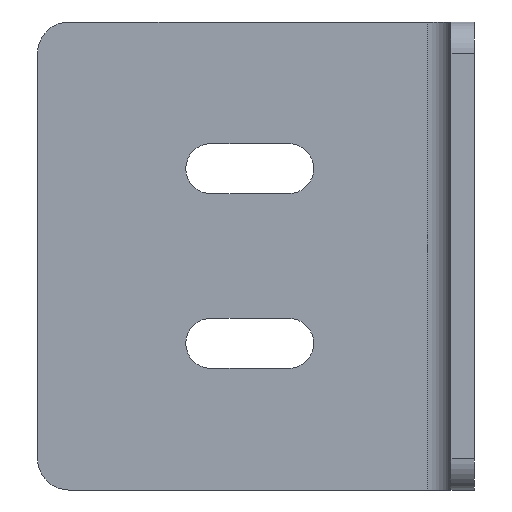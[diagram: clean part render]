
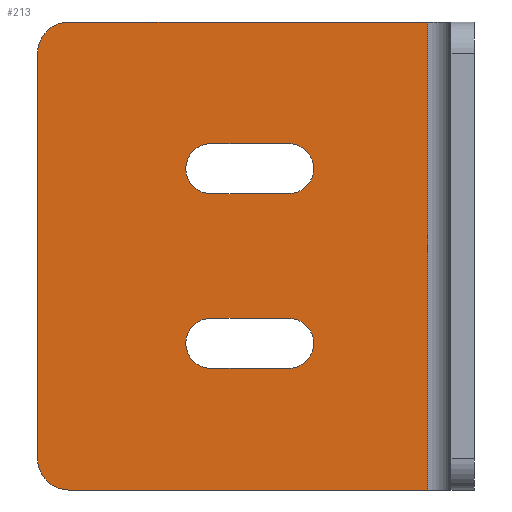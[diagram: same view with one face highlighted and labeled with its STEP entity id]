
A CAD part, left-side view. The second image highlights one B-rep face of the part: STEP entity #213.
In plain terms, the highlighted planar face has unit normal (-1, 0, 0).
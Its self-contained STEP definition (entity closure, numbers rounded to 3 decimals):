
#9 = DIRECTION ( 'NONE',  ( 0., 0., 1. ) ) ;
#20 = VECTOR ( 'NONE', #254, 1000. ) ;
#26 = DIRECTION ( 'NONE',  ( -1., 0., 0. ) ) ;
#55 = VERTEX_POINT ( 'NONE', #749 ) ;
#66 = FACE_BOUND ( 'NONE', #933, .T. ) ;
#72 = CARTESIAN_POINT ( 'NONE',  ( 0., 26.5, 28. ) ) ;
#83 = LINE ( 'NONE', #399, #256 ) ;
#86 = DIRECTION ( 'NONE',  ( 0., 1., 0. ) ) ;
#90 = EDGE_CURVE ( 'NONE', #679, #996, #1013, .T. ) ;
#92 = CARTESIAN_POINT ( 'NONE',  ( 0., 24.5, 30. ) ) ;
#111 = CARTESIAN_POINT ( 'NONE',  ( 0., 15.4, 7.8 ) ) ;
#112 = VERTEX_POINT ( 'NONE', #260 ) ;
#119 = DIRECTION ( 'NONE',  ( 0., 0., 1. ) ) ;
#131 = CIRCLE ( 'NONE', #859, 1.6 ) ;
#152 = CARTESIAN_POINT ( 'NONE',  ( 0., 15.4, 11. ) ) ;
#159 = ORIENTED_EDGE ( 'NONE', *, *, #751, .T. ) ;
#167 = ORIENTED_EDGE ( 'NONE', *, *, #90, .F. ) ;
#173 = VECTOR ( 'NONE', #797, 1000. ) ;
#177 = VERTEX_POINT ( 'NONE', #152 ) ;
#183 = EDGE_CURVE ( 'NONE', #814, #112, #962, .T. ) ;
#186 = DIRECTION ( 'NONE',  ( 0., 0., -1. ) ) ;
#200 = AXIS2_PLACEMENT_3D ( 'NONE', #201, #520, #119 ) ;
#201 = CARTESIAN_POINT ( 'NONE',  ( 0., 10.4, 9.4 ) ) ;
#213 = ADVANCED_FACE ( 'NONE', ( #66, #527, #219 ), #612, .F. ) ;
#214 = DIRECTION ( 'NONE',  ( -1., 0., 0. ) ) ;
#219 = FACE_OUTER_BOUND ( 'NONE', #640, .T. ) ;
#220 = ORIENTED_EDGE ( 'NONE', *, *, #954, .F. ) ;
#222 = CARTESIAN_POINT ( 'NONE',  ( 0., 10.4, 7.8 ) ) ;
#231 = DIRECTION ( 'NONE',  ( 0., 0., -1. ) ) ;
#236 = EDGE_CURVE ( 'NONE', #177, #679, #712, .T. ) ;
#245 = ORIENTED_EDGE ( 'NONE', *, *, #236, .F. ) ;
#250 = EDGE_CURVE ( 'NONE', #899, #630, #523, .T. ) ;
#252 = CARTESIAN_POINT ( 'NONE',  ( 0., 15.4, 22.2 ) ) ;
#254 = DIRECTION ( 'NONE',  ( 0., -1., 0. ) ) ;
#256 = VECTOR ( 'NONE', #86, 1000. ) ;
#260 = CARTESIAN_POINT ( 'NONE',  ( 0., 1.5, 30. ) ) ;
#264 = VERTEX_POINT ( 'NONE', #628 ) ;
#275 = VERTEX_POINT ( 'NONE', #937 ) ;
#286 = ORIENTED_EDGE ( 'NONE', *, *, #685, .F. ) ;
#289 = CIRCLE ( 'NONE', #658, 2. ) ;
#291 = CARTESIAN_POINT ( 'NONE',  ( 0., 0., 30. ) ) ;
#297 = CARTESIAN_POINT ( 'NONE',  ( 0., 24.5, 0. ) ) ;
#321 = EDGE_CURVE ( 'NONE', #951, #897, #817, .T. ) ;
#330 = EDGE_CURVE ( 'NONE', #55, #177, #83, .T. ) ;
#331 = LINE ( 'NONE', #727, #173 ) ;
#359 = EDGE_CURVE ( 'NONE', #897, #112, #721, .T. ) ;
#362 = EDGE_CURVE ( 'NONE', #275, #899, #902, .T. ) ;
#363 = CARTESIAN_POINT ( 'NONE',  ( 0., 10.4, 22.2 ) ) ;
#365 = DIRECTION ( 'NONE',  ( 0., 0., -1. ) ) ;
#375 = DIRECTION ( 'NONE',  ( -1., 0., 0. ) ) ;
#381 = DIRECTION ( 'NONE',  ( 0., 0., -1. ) ) ;
#383 = CARTESIAN_POINT ( 'NONE',  ( 0., 10.4, 20.6 ) ) ;
#399 = CARTESIAN_POINT ( 'NONE',  ( 0., 15.4, 11. ) ) ;
#403 = CARTESIAN_POINT ( 'NONE',  ( 0., 1.5, 30. ) ) ;
#408 = ORIENTED_EDGE ( 'NONE', *, *, #362, .F. ) ;
#420 = EDGE_CURVE ( 'NONE', #814, #759, #289, .T. ) ;
#431 = LINE ( 'NONE', #252, #1016 ) ;
#438 = VECTOR ( 'NONE', #787, 1000. ) ;
#441 = CARTESIAN_POINT ( 'NONE',  ( 0., 26.5, 2. ) ) ;
#456 = EDGE_LOOP ( 'NONE', ( #408, #220, #636, #505 ) ) ;
#457 = DIRECTION ( 'NONE',  ( 0., 0., -1. ) ) ;
#458 = CARTESIAN_POINT ( 'NONE',  ( 0., 0., 30. ) ) ;
#469 = DIRECTION ( 'NONE',  ( 0., 0., 1. ) ) ;
#505 = ORIENTED_EDGE ( 'NONE', *, *, #250, .F. ) ;
#520 = DIRECTION ( 'NONE',  ( -1., 0., 0. ) ) ;
#523 = CIRCLE ( 'NONE', #803, 1.6 ) ;
#527 = FACE_BOUND ( 'NONE', #456, .T. ) ;
#530 = DIRECTION ( 'NONE',  ( -1., 0., 0. ) ) ;
#547 = EDGE_CURVE ( 'NONE', #558, #951, #730, .T. ) ;
#558 = VERTEX_POINT ( 'NONE', #441 ) ;
#571 = DIRECTION ( 'NONE',  ( 0., 1., 0. ) ) ;
#573 = DIRECTION ( 'NONE',  ( 0., -1., 0. ) ) ;
#577 = VECTOR ( 'NONE', #9, 1000. ) ;
#585 = ORIENTED_EDGE ( 'NONE', *, *, #420, .T. ) ;
#611 = CARTESIAN_POINT ( 'NONE',  ( 0., 24.5, 2. ) ) ;
#612 = PLANE ( 'NONE',  #784 ) ;
#620 = DIRECTION ( 'NONE',  ( 1., 0., 0. ) ) ;
#628 = CARTESIAN_POINT ( 'NONE',  ( 0., 15.4, 22.2 ) ) ;
#630 = VERTEX_POINT ( 'NONE', #363 ) ;
#636 = ORIENTED_EDGE ( 'NONE', *, *, #931, .F. ) ;
#640 = EDGE_LOOP ( 'NONE', ( #159, #938, #821, #766, #1001, #585 ) ) ;
#650 = CARTESIAN_POINT ( 'NONE',  ( 0., 1.5, 0. ) ) ;
#658 = AXIS2_PLACEMENT_3D ( 'NONE', #1005, #26, #186 ) ;
#669 = CARTESIAN_POINT ( 'NONE',  ( 0., 10.4, 19. ) ) ;
#679 = VERTEX_POINT ( 'NONE', #1041 ) ;
#685 = EDGE_CURVE ( 'NONE', #996, #55, #880, .T. ) ;
#712 = CIRCLE ( 'NONE', #906, 1.6 ) ;
#717 = ORIENTED_EDGE ( 'NONE', *, *, #330, .F. ) ;
#721 = LINE ( 'NONE', #403, #577 ) ;
#727 = CARTESIAN_POINT ( 'NONE',  ( 0., 26.5, 30. ) ) ;
#730 = CIRCLE ( 'NONE', #973, 2. ) ;
#749 = CARTESIAN_POINT ( 'NONE',  ( 0., 10.4, 11. ) ) ;
#751 = EDGE_CURVE ( 'NONE', #759, #558, #331, .T. ) ;
#758 = DIRECTION ( 'NONE',  ( 0., -1., 0. ) ) ;
#759 = VERTEX_POINT ( 'NONE', #72 ) ;
#766 = ORIENTED_EDGE ( 'NONE', *, *, #359, .T. ) ;
#772 = CARTESIAN_POINT ( 'NONE',  ( 0., 15.4, 20.6 ) ) ;
#776 = CARTESIAN_POINT ( 'NONE',  ( 0., 15.4, 9.4 ) ) ;
#784 = AXIS2_PLACEMENT_3D ( 'NONE', #291, #620, #231 ) ;
#787 = DIRECTION ( 'NONE',  ( 0., -1., 0. ) ) ;
#792 = DIRECTION ( 'NONE',  ( -1., 0., 0. ) ) ;
#797 = DIRECTION ( 'NONE',  ( 0., 0., -1. ) ) ;
#803 = AXIS2_PLACEMENT_3D ( 'NONE', #383, #214, #365 ) ;
#812 = CARTESIAN_POINT ( 'NONE',  ( 0., 0., 0. ) ) ;
#814 = VERTEX_POINT ( 'NONE', #92 ) ;
#816 = VECTOR ( 'NONE', #758, 1000. ) ;
#817 = LINE ( 'NONE', #812, #20 ) ;
#821 = ORIENTED_EDGE ( 'NONE', *, *, #321, .T. ) ;
#859 = AXIS2_PLACEMENT_3D ( 'NONE', #772, #375, #381 ) ;
#880 = CIRCLE ( 'NONE', #200, 1.6 ) ;
#897 = VERTEX_POINT ( 'NONE', #650 ) ;
#899 = VERTEX_POINT ( 'NONE', #669 ) ;
#902 = LINE ( 'NONE', #1053, #941 ) ;
#906 = AXIS2_PLACEMENT_3D ( 'NONE', #776, #792, #469 ) ;
#931 = EDGE_CURVE ( 'NONE', #630, #264, #431, .T. ) ;
#933 = EDGE_LOOP ( 'NONE', ( #167, #245, #717, #286 ) ) ;
#937 = CARTESIAN_POINT ( 'NONE',  ( 0., 15.4, 19. ) ) ;
#938 = ORIENTED_EDGE ( 'NONE', *, *, #547, .T. ) ;
#941 = VECTOR ( 'NONE', #573, 1000. ) ;
#951 = VERTEX_POINT ( 'NONE', #297 ) ;
#954 = EDGE_CURVE ( 'NONE', #264, #275, #131, .T. ) ;
#962 = LINE ( 'NONE', #458, #438 ) ;
#973 = AXIS2_PLACEMENT_3D ( 'NONE', #611, #530, #457 ) ;
#996 = VERTEX_POINT ( 'NONE', #222 ) ;
#1001 = ORIENTED_EDGE ( 'NONE', *, *, #183, .F. ) ;
#1005 = CARTESIAN_POINT ( 'NONE',  ( 0., 24.5, 28. ) ) ;
#1013 = LINE ( 'NONE', #111, #816 ) ;
#1016 = VECTOR ( 'NONE', #571, 1000. ) ;
#1041 = CARTESIAN_POINT ( 'NONE',  ( 0., 15.4, 7.8 ) ) ;
#1053 = CARTESIAN_POINT ( 'NONE',  ( 0., 15.4, 19. ) ) ;
